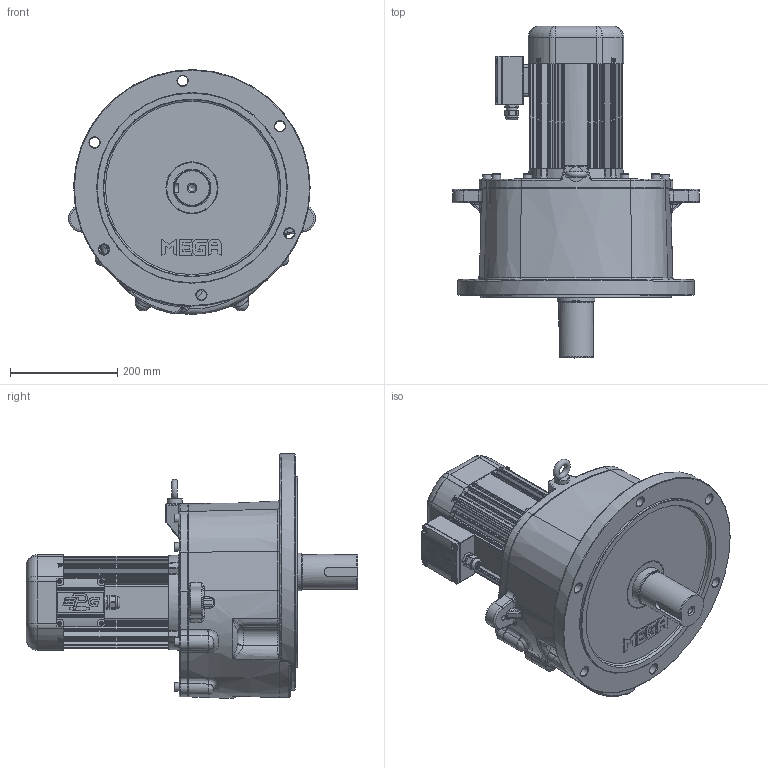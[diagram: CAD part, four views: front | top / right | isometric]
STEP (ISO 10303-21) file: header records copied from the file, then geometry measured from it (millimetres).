
FILE_DESCRIPTION(/* description */ (''),/* implementation_level */ '2;1');
FILE_NAME(/* name */ 'Z:\동력 3D 파일\PMK235_1.5kW_3D.stp',/* time_stamp */ '2021-11-30T17:43:38+09:00',/* author */ ('jaebok'),/* organization */ (''),/* preprocessor_version */ 'ST-DEVELOPER v18.1',/* originating_system */ 'Autodesk Inventor 2022',/* authorisation */ '');
FILE_SCHEMA (('AUTOMOTIVE_DESIGN { 1 0 10303 214 3 1 1 }'));
Products named in the file (1): 부품35
Bounding box: 459.83 x 618 x 455.2 mm (x, y, z)
Volume: 12945548.1 mm3; surface area: 1862021.9 mm2
Topology: 2 solids, 33 shells, 3264 faces, 8130 edges, 4835 vertices
Faces by surface type: plane 1004, cylinder 883, bspline 722, torus 311, cone 206, sphere 138
Full cylindrical faces by diameter (mm): 3.25 x1, 3.6 x4, 4 x21, 4.917 x4, 5 x13, 6 x5, 7 x12, 8 x5, 8.376 x1, 10 x9, 10.106 x11, 12 x9, 12.5 x1, 13 x8, 13.835 x1, 15 x1, 16 x8, 19 x6, 20 x3, 21 x1, 23.6 x1, 25 x1, 26 x1, 28 x1, 36 x1, 38 x1, 40 x1, 50 x1, 52 x2, 55 x1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
Entity records: 128559 total; most frequent: CARTESIAN_POINT 51759, ORIENTED_EDGE 15800, DIRECTION 14982, EDGE_CURVE 7900, AXIS2_PLACEMENT_3D 6090, VERTEX_POINT 4833, EDGE_LOOP 3515, CIRCLE 3403
